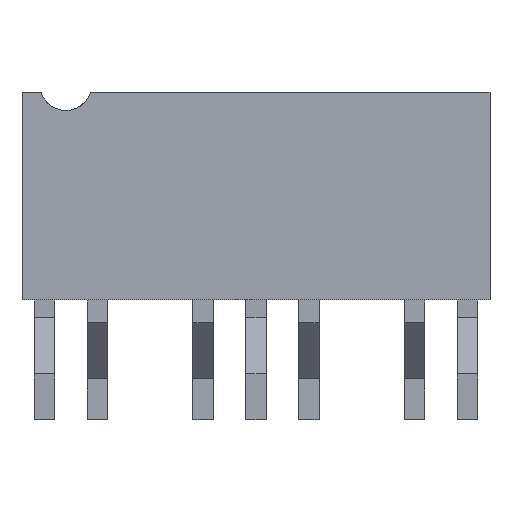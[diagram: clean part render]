
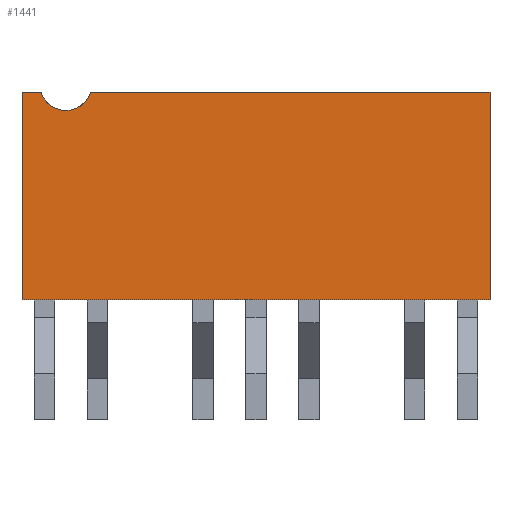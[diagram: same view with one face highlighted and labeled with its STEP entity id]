
A CAD part, left-side view. The second image highlights one B-rep face of the part: STEP entity #1441.
In plain terms, the highlighted planar face has unit normal (-1, 0, 0).
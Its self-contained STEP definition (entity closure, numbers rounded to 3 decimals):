
#21=CIRCLE('',#1528,0.638);
#88=FACE_OUTER_BOUND('',#160,.T.);
#160=EDGE_LOOP('',(#1176,#1177,#1178,#1179,#1180,#1181));
#345=LINE('',#2229,#532);
#346=LINE('',#2231,#533);
#347=LINE('',#2233,#534);
#348=LINE('',#2235,#535);
#349=LINE('',#2236,#536);
#532=VECTOR('',#1843,10.);
#533=VECTOR('',#1844,10.);
#534=VECTOR('',#1845,10.);
#535=VECTOR('',#1846,10.);
#536=VECTOR('',#1847,10.);
#663=VERTEX_POINT('',#2222);
#664=VERTEX_POINT('',#2224);
#665=VERTEX_POINT('',#2228);
#666=VERTEX_POINT('',#2230);
#667=VERTEX_POINT('',#2232);
#668=VERTEX_POINT('',#2234);
#845=EDGE_CURVE('',#664,#663,#21,.T.);
#847=EDGE_CURVE('',#665,#663,#345,.T.);
#848=EDGE_CURVE('',#666,#665,#346,.T.);
#849=EDGE_CURVE('',#667,#666,#347,.T.);
#850=EDGE_CURVE('',#668,#667,#348,.T.);
#851=EDGE_CURVE('',#664,#668,#349,.T.);
#1176=ORIENTED_EDGE('',*,*,#845,.T.);
#1177=ORIENTED_EDGE('',*,*,#847,.F.);
#1178=ORIENTED_EDGE('',*,*,#848,.F.);
#1179=ORIENTED_EDGE('',*,*,#849,.F.);
#1180=ORIENTED_EDGE('',*,*,#850,.F.);
#1181=ORIENTED_EDGE('',*,*,#851,.F.);
#1305=PLANE('',#1529);
#1441=ADVANCED_FACE('',(#88),#1305,.F.);
#1528=AXIS2_PLACEMENT_3D('',#2225,#1838,#1839);
#1529=AXIS2_PLACEMENT_3D('',#2227,#1841,#1842);
#1838=DIRECTION('center_axis',(1.,0.,0.));
#1839=DIRECTION('ref_axis',(0.,1.,0.));
#1841=DIRECTION('center_axis',(1.,0.,0.));
#1842=DIRECTION('ref_axis',(0.,1.,0.));
#1843=DIRECTION('',(0.,-1.,0.));
#1844=DIRECTION('',(0.,0.,1.));
#1845=DIRECTION('',(0.,1.,0.));
#1846=DIRECTION('',(0.,0.,-1.));
#1847=DIRECTION('',(0.,-1.,0.));
#2222=CARTESIAN_POINT('',(0.,5.282,2.55));
#2224=CARTESIAN_POINT('',(0.,4.066,2.55));
#2225=CARTESIAN_POINT('Origin',(0.,4.674,2.743));
#2227=CARTESIAN_POINT('Origin',(0.,0.,0.));
#2228=CARTESIAN_POINT('',(0.,5.75,2.55));
#2229=CARTESIAN_POINT('',(0.,5.75,2.55));
#2230=CARTESIAN_POINT('',(0.,5.75,-2.55));
#2231=CARTESIAN_POINT('',(0.,5.75,-2.55));
#2232=CARTESIAN_POINT('',(0.,-5.75,-2.55));
#2233=CARTESIAN_POINT('',(0.,-5.75,-2.55));
#2234=CARTESIAN_POINT('',(0.,-5.75,2.55));
#2235=CARTESIAN_POINT('',(0.,-5.75,2.55));
#2236=CARTESIAN_POINT('',(0.,5.75,2.55));
